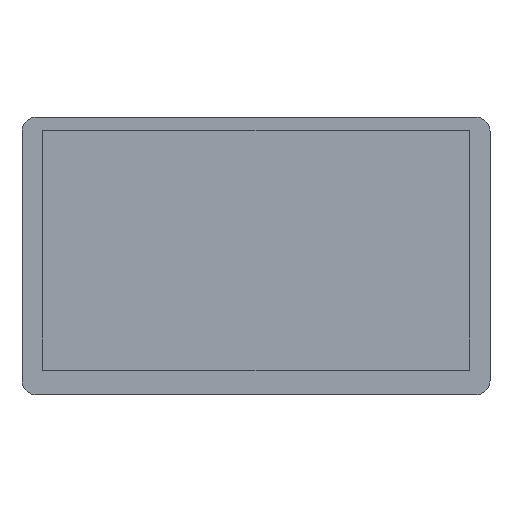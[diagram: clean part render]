
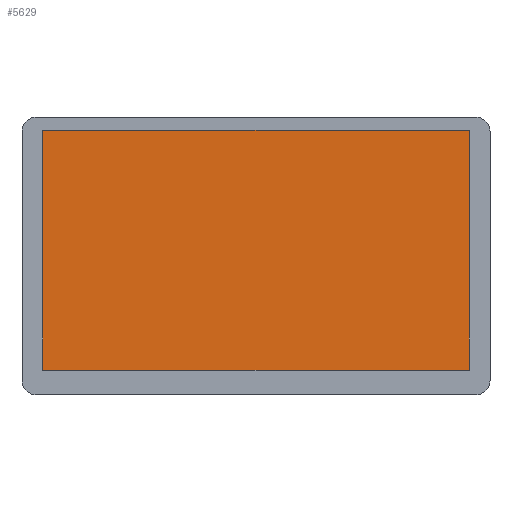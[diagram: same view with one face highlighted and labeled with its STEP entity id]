
A CAD part, top view. The second image highlights one B-rep face of the part: STEP entity #5629.
In plain terms, the highlighted planar face has unit normal (0, 0, 1).
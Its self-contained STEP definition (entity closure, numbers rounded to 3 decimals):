
#4230=DIRECTION('',(-1.,0.,0.));
#4231=VECTOR('',#4230,345.1);
#4232=CARTESIAN_POINT('',(172.55,97.,5.75));
#4233=LINE('',#4232,#4231);
#4238=DIRECTION('',(0.,1.,0.));
#4239=VECTOR('',#4238,194.);
#4240=CARTESIAN_POINT('',(172.55,-97.,5.75));
#4241=LINE('',#4240,#4239);
#4246=DIRECTION('',(1.,0.,0.));
#4247=VECTOR('',#4246,345.1);
#4248=CARTESIAN_POINT('',(-172.55,-97.,5.75));
#4249=LINE('',#4248,#4247);
#4254=DIRECTION('',(0.,-1.,0.));
#4255=VECTOR('',#4254,194.);
#4256=CARTESIAN_POINT('',(-172.55,97.,5.75));
#4257=LINE('',#4256,#4255);
#4730=CARTESIAN_POINT('',(172.55,97.,5.75));
#4731=CARTESIAN_POINT('',(-172.55,97.,5.75));
#4732=VERTEX_POINT('',#4730);
#4733=VERTEX_POINT('',#4731);
#4742=CARTESIAN_POINT('',(172.55,-97.,5.75));
#4743=VERTEX_POINT('',#4742);
#4744=CARTESIAN_POINT('',(-172.55,-97.,5.75));
#4745=VERTEX_POINT('',#4744);
#5615=CARTESIAN_POINT('',(172.55,97.,5.75));
#5616=DIRECTION('',(0.,0.,1.));
#5617=DIRECTION('',(-1.,0.,0.));
#5618=AXIS2_PLACEMENT_3D('',#5615,#5616,#5617);
#5619=PLANE('',#5618);
#5620=ORIENTED_EDGE('',*,*,#5598,.F.);
#5622=ORIENTED_EDGE('',*,*,#5621,.F.);
#5624=ORIENTED_EDGE('',*,*,#5623,.F.);
#5626=ORIENTED_EDGE('',*,*,#5625,.F.);
#5627=EDGE_LOOP('',(#5620,#5622,#5624,#5626));
#5628=FACE_OUTER_BOUND('',#5627,.F.);
#5629=ADVANCED_FACE('',(#5628),#5619,.T.);
#5598=EDGE_CURVE('',#4732,#4733,#4233,.T.);
#5621=EDGE_CURVE('',#4743,#4732,#4241,.T.);
#5623=EDGE_CURVE('',#4745,#4743,#4249,.T.);
#5625=EDGE_CURVE('',#4733,#4745,#4257,.T.);
